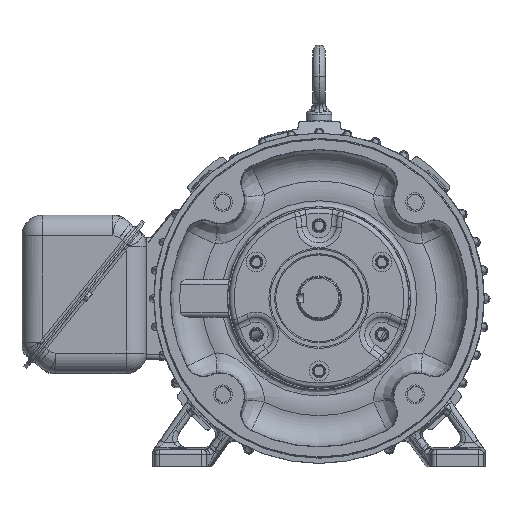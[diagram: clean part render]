
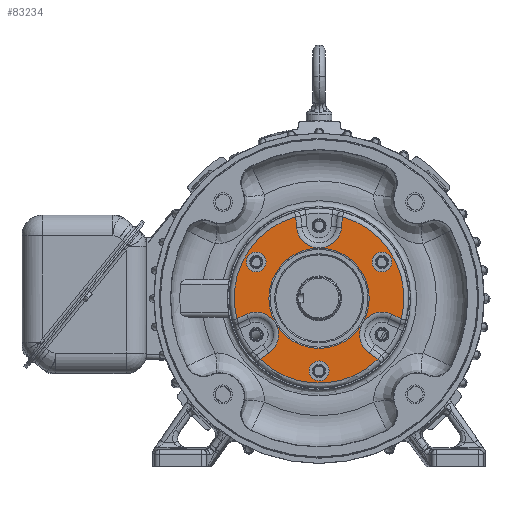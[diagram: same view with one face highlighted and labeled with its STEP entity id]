
A CAD part, top view. The second image highlights one B-rep face of the part: STEP entity #83234.
In plain terms, the highlighted planar face has unit normal (0, 0, 1).
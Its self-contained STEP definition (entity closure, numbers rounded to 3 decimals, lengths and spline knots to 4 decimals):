
#78484=CARTESIAN_POINT('',(0.,0.,0.53));
#78485=DIRECTION('',(0.,0.,-1.));
#78486=DIRECTION('',(0.,-1.,0.));
#78487=AXIS2_PLACEMENT_3D('',#78484,#78485,#78486);
#78499=CARTESIAN_POINT('',(0.,0.,0.53));
#78500=DIRECTION('',(0.,0.,-1.));
#78501=DIRECTION('',(0.,1.,0.));
#78502=AXIS2_PLACEMENT_3D('',#78499,#78500,#78501);
#78504=CARTESIAN_POINT('',(1.6779,0.9688,0.53));
#78505=DIRECTION('',(0.,0.,1.));
#78506=DIRECTION('',(1.,0.,0.));
#78507=AXIS2_PLACEMENT_3D('',#78504,#78505,#78506);
#78509=CARTESIAN_POINT('',(1.6779,0.9688,0.53));
#78510=DIRECTION('',(0.,0.,1.));
#78511=DIRECTION('',(-1.,0.,0.));
#78512=AXIS2_PLACEMENT_3D('',#78509,#78510,#78511);
#78514=CARTESIAN_POINT('',(0.,-1.9375,0.53));
#78515=DIRECTION('',(0.,0.,1.));
#78516=DIRECTION('',(1.,0.,0.));
#78517=AXIS2_PLACEMENT_3D('',#78514,#78515,#78516);
#78519=CARTESIAN_POINT('',(0.,-1.9375,0.53));
#78520=DIRECTION('',(0.,0.,1.));
#78521=DIRECTION('',(-1.,0.,0.));
#78522=AXIS2_PLACEMENT_3D('',#78519,#78520,#78521);
#78524=CARTESIAN_POINT('',(-1.6779,0.9688,0.53));
#78525=DIRECTION('',(0.,0.,1.));
#78526=DIRECTION('',(1.,0.,0.));
#78527=AXIS2_PLACEMENT_3D('',#78524,#78525,#78526);
#78529=CARTESIAN_POINT('',(-1.6779,0.9688,0.53));
#78530=DIRECTION('',(0.,0.,1.));
#78531=DIRECTION('',(-1.,0.,0.));
#78532=AXIS2_PLACEMENT_3D('',#78529,#78530,#78531);
#78534=CARTESIAN_POINT('',(0.,0.,0.53));
#78535=DIRECTION('',(0.,0.,1.));
#78536=DIRECTION('',(0.97,-0.242,0.));
#78537=AXIS2_PLACEMENT_3D('',#78534,#78535,#78536);
#78574=DIRECTION('',(0.087,0.996,0.));
#78575=VECTOR('',#78574,0.2904);
#78576=CARTESIAN_POINT('',(0.5982,1.8877,0.53));
#78577=LINE('',#78576,#78575);
#78592=CARTESIAN_POINT('',(0.,1.94,0.53));
#78593=DIRECTION('',(0.,0.,1.));
#78594=DIRECTION('',(-0.996,-0.087,0.));
#78595=AXIS2_PLACEMENT_3D('',#78592,#78593,#78594);
#78649=CARTESIAN_POINT('',(-0.6235,2.1769,
0.53));
#78670=DIRECTION('',(0.087,-0.996,0.));
#78671=VECTOR('',#78670,0.2904);
#78672=CARTESIAN_POINT('',(-0.6235,2.1769,
0.53));
#78673=LINE('',#78672,#78671);
#78674=CARTESIAN_POINT('',(0.,0.,0.53));
#78675=DIRECTION('',(0.,0.,1.));
#78676=DIRECTION('',(-0.275,0.961,0.));
#78677=AXIS2_PLACEMENT_3D('',#78674,#78675,#78676);
#78714=DIRECTION('',(-0.906,-0.423,0.));
#78715=VECTOR('',#78714,0.2904);
#78716=CARTESIAN_POINT('',(-1.9339,-0.4258,0.53));
#78717=LINE('',#78716,#78715);
#78732=CARTESIAN_POINT('',(-1.6801,-0.97,0.53));
#78733=DIRECTION('',(0.,0.,1.));
#78734=DIRECTION('',(0.574,-0.819,0.));
#78735=AXIS2_PLACEMENT_3D('',#78732,#78733,#78734);
#78789=CARTESIAN_POINT('',(-1.5735,-1.6285,
0.53));
#78810=DIRECTION('',(0.819,0.574,0.));
#78811=VECTOR('',#78810,0.2904);
#78812=CARTESIAN_POINT('',(-1.5735,-1.6285,
0.53));
#78813=LINE('',#78812,#78811);
#78829=CARTESIAN_POINT('',(0.,0.,0.53));
#78830=DIRECTION('',(0.,0.,1.));
#78831=DIRECTION('',(-0.695,-0.719,0.));
#78832=AXIS2_PLACEMENT_3D('',#78829,#78830,#78831);
#78981=CARTESIAN_POINT('',(1.5735,-1.6285,
0.53));
#79006=DIRECTION('',(0.819,-0.574,0.));
#79007=VECTOR('',#79006,0.2904);
#79008=CARTESIAN_POINT('',(1.3357,-1.4619,0.53));
#79009=LINE('',#79008,#79007);
#79024=CARTESIAN_POINT('',(1.6801,-0.97,0.53));
#79025=DIRECTION('',(0.,0.,1.));
#79026=DIRECTION('',(0.423,0.906,0.));
#79027=AXIS2_PLACEMENT_3D('',#79024,#79025,#79026);
#79102=DIRECTION('',(-0.906,0.423,0.));
#79103=VECTOR('',#79102,0.2904);
#79104=CARTESIAN_POINT('',(2.1971,-0.5485,
0.53));
#79105=LINE('',#79104,#79103);
#79445=CARTESIAN_POINT('',(-0.5982,1.8877,0.53));
#79446=CARTESIAN_POINT('',(0.5982,1.8877,0.53));
#79447=VERTEX_POINT('',#79445);
#79448=VERTEX_POINT('',#79446);
#79453=CARTESIAN_POINT('',(-1.3357,-1.4619,0.53));
#79454=CARTESIAN_POINT('',(-1.9339,-0.4258,0.53));
#79455=VERTEX_POINT('',#79453);
#79456=VERTEX_POINT('',#79454);
#79461=CARTESIAN_POINT('',(1.9339,-0.4258,0.53));
#79462=CARTESIAN_POINT('',(1.3357,-1.4619,0.53));
#79463=VERTEX_POINT('',#79461);
#79464=VERTEX_POINT('',#79462);
#79465=CARTESIAN_POINT('',(2.1971,-0.5485,0.53));
#79466=CARTESIAN_POINT('',(0.6235,2.1769,0.53));
#79467=VERTEX_POINT('',#79465);
#79468=VERTEX_POINT('',#79466);
#79484=VERTEX_POINT('',#78649);
#79486=CARTESIAN_POINT('',(-2.1971,-0.5485,0.53));
#79487=VERTEX_POINT('',#79486);
#79500=VERTEX_POINT('',#78789);
#79506=VERTEX_POINT('',#78981);
#79517=CARTESIAN_POINT('',(0.,-1.3384,0.53));
#79518=CARTESIAN_POINT('',(0.,1.3384,0.53));
#79519=VERTEX_POINT('',#79517);
#79520=VERTEX_POINT('',#79518);
#79797=CARTESIAN_POINT('',(1.9434,0.9688,0.53));
#79798=CARTESIAN_POINT('',(1.4124,0.9688,0.53));
#79799=VERTEX_POINT('',#79797);
#79800=VERTEX_POINT('',#79798);
#79805=CARTESIAN_POINT('',(0.2655,-1.9375,0.53));
#79806=CARTESIAN_POINT('',(-0.2655,-1.9375,0.53));
#79807=VERTEX_POINT('',#79805);
#79808=VERTEX_POINT('',#79806);
#79813=CARTESIAN_POINT('',(-1.4124,0.9688,0.53));
#79814=CARTESIAN_POINT('',(-1.9434,0.9688,0.53));
#79815=VERTEX_POINT('',#79813);
#79816=VERTEX_POINT('',#79814);
#83181=CARTESIAN_POINT('',(0.,0.,0.53));
#83182=DIRECTION('',(0.,0.,-1.));
#83183=DIRECTION('',(0.,-1.,0.));
#83184=AXIS2_PLACEMENT_3D('',#83181,#83182,#83183);
#83185=PLANE('',#83184);
#83187=ORIENTED_EDGE('',*,*,#83186,.F.);
#83189=ORIENTED_EDGE('',*,*,#83188,.T.);
#83191=ORIENTED_EDGE('',*,*,#83190,.T.);
#83193=ORIENTED_EDGE('',*,*,#83192,.T.);
#83195=ORIENTED_EDGE('',*,*,#83194,.F.);
#83197=ORIENTED_EDGE('',*,*,#83196,.T.);
#83199=ORIENTED_EDGE('',*,*,#83198,.T.);
#83201=ORIENTED_EDGE('',*,*,#83200,.T.);
#83203=ORIENTED_EDGE('',*,*,#83202,.F.);
#83205=ORIENTED_EDGE('',*,*,#83204,.T.);
#83207=ORIENTED_EDGE('',*,*,#83206,.T.);
#83209=ORIENTED_EDGE('',*,*,#83208,.T.);
#83210=EDGE_LOOP('',(#83187,#83189,#83191,#83193,#83195,#83197,#83199,#83201,
#83203,#83205,#83207,#83209));
#83211=FACE_OUTER_BOUND('',#83210,.F.);
#83212=ORIENTED_EDGE('',*,*,#83161,.F.);
#83213=ORIENTED_EDGE('',*,*,#83175,.F.);
#83214=EDGE_LOOP('',(#83212,#83213));
#83215=FACE_BOUND('',#83214,.F.);
#83217=ORIENTED_EDGE('',*,*,#83216,.T.);
#83219=ORIENTED_EDGE('',*,*,#83218,.T.);
#83220=EDGE_LOOP('',(#83217,#83219));
#83221=FACE_BOUND('',#83220,.F.);
#83223=ORIENTED_EDGE('',*,*,#83222,.T.);
#83225=ORIENTED_EDGE('',*,*,#83224,.T.);
#83226=EDGE_LOOP('',(#83223,#83225));
#83227=FACE_BOUND('',#83226,.F.);
#83229=ORIENTED_EDGE('',*,*,#83228,.T.);
#83231=ORIENTED_EDGE('',*,*,#83230,.T.);
#83232=EDGE_LOOP('',(#83229,#83231));
#83233=FACE_BOUND('',#83232,.F.);
#83234=ADVANCED_FACE('',(#83211,#83215,#83221,#83227,#83233),#83185,.F.);
#78488=CIRCLE('',#78487,1.3384);
#78503=CIRCLE('',#78502,1.3384);
#78508=CIRCLE('',#78507,0.2655);
#78513=CIRCLE('',#78512,0.2655);
#78518=CIRCLE('',#78517,0.2655);
#78523=CIRCLE('',#78522,0.2655);
#78528=CIRCLE('',#78527,0.2655);
#78533=CIRCLE('',#78532,0.2655);
#78538=CIRCLE('',#78537,2.2645);
#78596=CIRCLE('',#78595,0.6005);
#78678=CIRCLE('',#78677,2.2645);
#78736=CIRCLE('',#78735,0.6005);
#78833=CIRCLE('',#78832,2.2645);
#79028=CIRCLE('',#79027,0.6005);
#83161=EDGE_CURVE('',#79519,#79520,#78488,.T.);
#83175=EDGE_CURVE('',#79520,#79519,#78503,.T.);
#83186=EDGE_CURVE('',#79467,#79468,#78538,.T.);
#83188=EDGE_CURVE('',#79467,#79463,#79105,.T.);
#83190=EDGE_CURVE('',#79463,#79464,#79028,.T.);
#83192=EDGE_CURVE('',#79464,#79506,#79009,.T.);
#83194=EDGE_CURVE('',#79500,#79506,#78833,.T.);
#83196=EDGE_CURVE('',#79500,#79455,#78813,.T.);
#83198=EDGE_CURVE('',#79455,#79456,#78736,.T.);
#83200=EDGE_CURVE('',#79456,#79487,#78717,.T.);
#83202=EDGE_CURVE('',#79484,#79487,#78678,.T.);
#83204=EDGE_CURVE('',#79484,#79447,#78673,.T.);
#83206=EDGE_CURVE('',#79447,#79448,#78596,.T.);
#83208=EDGE_CURVE('',#79448,#79468,#78577,.T.);
#83216=EDGE_CURVE('',#79799,#79800,#78508,.T.);
#83218=EDGE_CURVE('',#79800,#79799,#78513,.T.);
#83222=EDGE_CURVE('',#79807,#79808,#78518,.T.);
#83224=EDGE_CURVE('',#79808,#79807,#78523,.T.);
#83228=EDGE_CURVE('',#79815,#79816,#78528,.T.);
#83230=EDGE_CURVE('',#79816,#79815,#78533,.T.);
